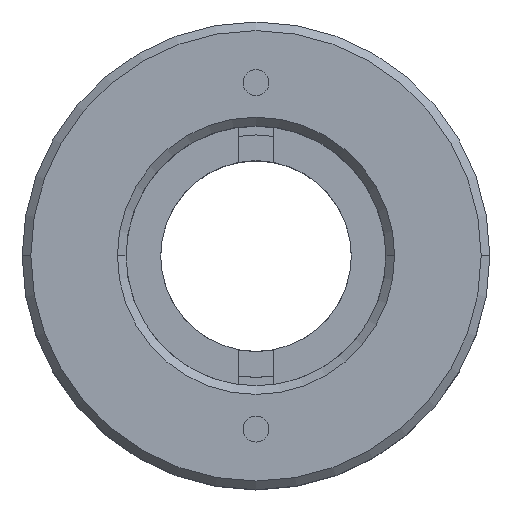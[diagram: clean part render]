
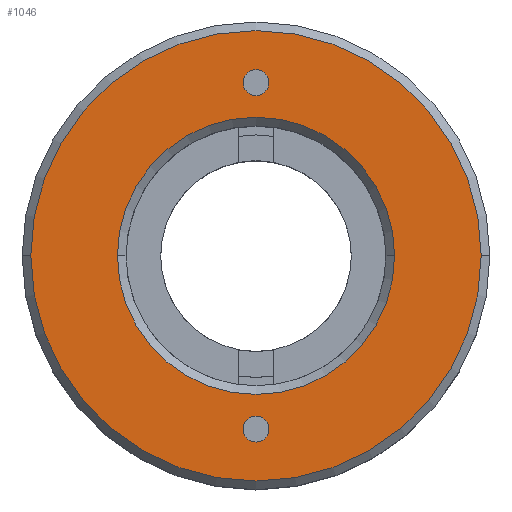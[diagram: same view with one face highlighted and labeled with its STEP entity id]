
A CAD part, top view. The second image highlights one B-rep face of the part: STEP entity #1046.
In plain terms, the highlighted planar face has unit normal (0, 0, 1).
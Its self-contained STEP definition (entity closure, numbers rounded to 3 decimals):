
#8 = AXIS2_PLACEMENT_3D ( 'NONE', #1092, #814, #808 ) ;
#11 = EDGE_CURVE ( 'NONE', #160, #534, #794, .T. ) ;
#22 = EDGE_CURVE ( 'NONE', #129, #704, #1041, .T. ) ;
#24 = ORIENTED_EDGE ( 'NONE', *, *, #617, .T. ) ;
#31 = CARTESIAN_POINT ( 'NONE',  ( -0.932, 0.414, 15. ) ) ;
#36 = AXIS2_PLACEMENT_3D ( 'NONE', #260, #437, #1019 ) ;
#39 = DIRECTION ( 'NONE',  ( 0., 0., 1. ) ) ;
#101 = DIRECTION ( 'NONE',  ( 0., 0., 1. ) ) ;
#106 = DIRECTION ( 'NONE',  ( 1., 0., 0. ) ) ;
#129 = VERTEX_POINT ( 'NONE', #1100 ) ;
#148 = CARTESIAN_POINT ( 'NONE',  ( -0.932, -9.586, 15. ) ) ;
#158 = AXIS2_PLACEMENT_3D ( 'NONE', #148, #786, #244 ) ;
#160 = VERTEX_POINT ( 'NONE', #622 ) ;
#198 = DIRECTION ( 'NONE',  ( 1., 0., 0. ) ) ;
#207 = CARTESIAN_POINT ( 'NONE',  ( -0.932, 0.414, 15. ) ) ;
#209 = AXIS2_PLACEMENT_3D ( 'NONE', #207, #540, #372 ) ;
#227 = VERTEX_POINT ( 'NONE', #716 ) ;
#234 = ORIENTED_EDGE ( 'NONE', *, *, #760, .F. ) ;
#236 = CARTESIAN_POINT ( 'NONE',  ( 7.068, 0.414, 15. ) ) ;
#244 = DIRECTION ( 'NONE',  ( -1., 0., 0. ) ) ;
#257 = FACE_BOUND ( 'NONE', #1124, .T. ) ;
#260 = CARTESIAN_POINT ( 'NONE',  ( -0.932, 0.414, 15. ) ) ;
#267 = ORIENTED_EDGE ( 'NONE', *, *, #329, .T. ) ;
#304 = CIRCLE ( 'NONE', #386, 13. ) ;
#313 = AXIS2_PLACEMENT_3D ( 'NONE', #359, #368, #198 ) ;
#329 = EDGE_CURVE ( 'NONE', #487, #449, #652, .T. ) ;
#338 = EDGE_CURVE ( 'NONE', #449, #487, #713, .T. ) ;
#357 = ORIENTED_EDGE ( 'NONE', *, *, #1091, .F. ) ;
#359 = CARTESIAN_POINT ( 'NONE',  ( -0.932, 0.414, 15. ) ) ;
#368 = DIRECTION ( 'NONE',  ( 0., 0., -1. ) ) ;
#372 = DIRECTION ( 'NONE',  ( 1., 0., 0. ) ) ;
#386 = AXIS2_PLACEMENT_3D ( 'NONE', #404, #957, #1137 ) ;
#397 = AXIS2_PLACEMENT_3D ( 'NONE', #31, #656, #565 ) ;
#404 = CARTESIAN_POINT ( 'NONE',  ( -0.932, 0.414, 15. ) ) ;
#432 = PLANE ( 'NONE',  #36 ) ;
#437 = DIRECTION ( 'NONE',  ( 0., 0., 1. ) ) ;
#440 = EDGE_LOOP ( 'NONE', ( #267, #971 ) ) ;
#449 = VERTEX_POINT ( 'NONE', #773 ) ;
#462 = FACE_OUTER_BOUND ( 'NONE', #1108, .T. ) ;
#477 = EDGE_LOOP ( 'NONE', ( #234, #357 ) ) ;
#487 = VERTEX_POINT ( 'NONE', #236 ) ;
#525 = ORIENTED_EDGE ( 'NONE', *, *, #22, .F. ) ;
#534 = VERTEX_POINT ( 'NONE', #1125 ) ;
#540 = DIRECTION ( 'NONE',  ( 0., 0., -1. ) ) ;
#551 = CARTESIAN_POINT ( 'NONE',  ( -0.932, 10.414, 15. ) ) ;
#565 = DIRECTION ( 'NONE',  ( 1., 0., 0. ) ) ;
#585 = ORIENTED_EDGE ( 'NONE', *, *, #11, .T. ) ;
#617 = EDGE_CURVE ( 'NONE', #534, #160, #304, .T. ) ;
#622 = CARTESIAN_POINT ( 'NONE',  ( -13.932, 0.414, 15. ) ) ;
#638 = CARTESIAN_POINT ( 'NONE',  ( -0.182, 10.414, 15. ) ) ;
#652 = CIRCLE ( 'NONE', #209, 8. ) ;
#656 = DIRECTION ( 'NONE',  ( 0., 0., 1. ) ) ;
#697 = EDGE_CURVE ( 'NONE', #704, #129, #927, .T. ) ;
#704 = VERTEX_POINT ( 'NONE', #638 ) ;
#713 = CIRCLE ( 'NONE', #313, 8. ) ;
#716 = CARTESIAN_POINT ( 'NONE',  ( -1.682, -9.586, 15. ) ) ;
#737 = CARTESIAN_POINT ( 'NONE',  ( -0.182, -9.586, 15. ) ) ;
#760 = EDGE_CURVE ( 'NONE', #1052, #227, #887, .T. ) ;
#773 = CARTESIAN_POINT ( 'NONE',  ( -8.932, 0.414, 15. ) ) ;
#786 = DIRECTION ( 'NONE',  ( 0., 0., 1. ) ) ;
#794 = CIRCLE ( 'NONE', #397, 13. ) ;
#808 = DIRECTION ( 'NONE',  ( -1., 0., 0. ) ) ;
#814 = DIRECTION ( 'NONE',  ( 0., 0., 1. ) ) ;
#869 = AXIS2_PLACEMENT_3D ( 'NONE', #551, #101, #106 ) ;
#887 = CIRCLE ( 'NONE', #8, 0.75 ) ;
#927 = CIRCLE ( 'NONE', #869, 0.75 ) ;
#928 = FACE_BOUND ( 'NONE', #440, .T. ) ;
#957 = DIRECTION ( 'NONE',  ( 0., 0., 1. ) ) ;
#971 = ORIENTED_EDGE ( 'NONE', *, *, #338, .T. ) ;
#1019 = DIRECTION ( 'NONE',  ( 1., 0., 0. ) ) ;
#1029 = AXIS2_PLACEMENT_3D ( 'NONE', #1115, #39, #1035 ) ;
#1035 = DIRECTION ( 'NONE',  ( 1., 0., 0. ) ) ;
#1041 = CIRCLE ( 'NONE', #1029, 0.75 ) ;
#1046 = ADVANCED_FACE ( 'NONE', ( #1163, #257, #462, #928 ), #432, .T. ) ;
#1052 = VERTEX_POINT ( 'NONE', #737 ) ;
#1063 = ORIENTED_EDGE ( 'NONE', *, *, #697, .F. ) ;
#1091 = EDGE_CURVE ( 'NONE', #227, #1052, #1127, .T. ) ;
#1092 = CARTESIAN_POINT ( 'NONE',  ( -0.932, -9.586, 15. ) ) ;
#1100 = CARTESIAN_POINT ( 'NONE',  ( -1.682, 10.414, 15. ) ) ;
#1108 = EDGE_LOOP ( 'NONE', ( #585, #24 ) ) ;
#1115 = CARTESIAN_POINT ( 'NONE',  ( -0.932, 10.414, 15. ) ) ;
#1124 = EDGE_LOOP ( 'NONE', ( #1063, #525 ) ) ;
#1125 = CARTESIAN_POINT ( 'NONE',  ( 12.068, 0.414, 15. ) ) ;
#1127 = CIRCLE ( 'NONE', #158, 0.75 ) ;
#1137 = DIRECTION ( 'NONE',  ( 1., 0., 0. ) ) ;
#1163 = FACE_BOUND ( 'NONE', #477, .T. ) ;
